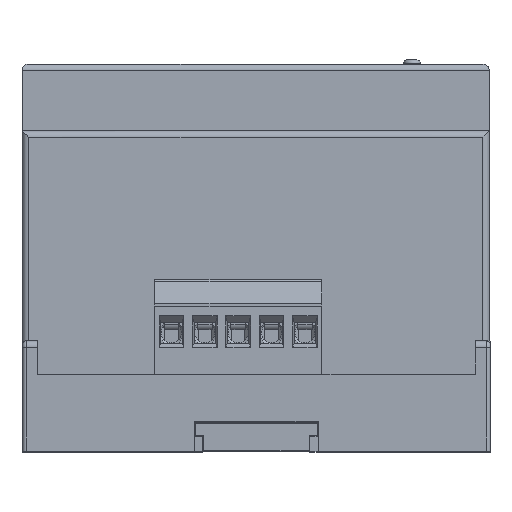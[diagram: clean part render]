
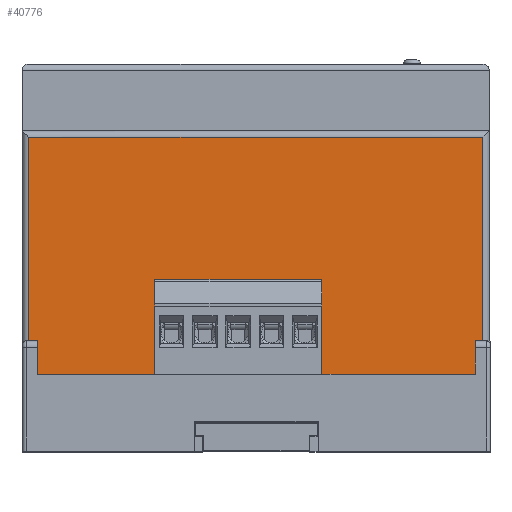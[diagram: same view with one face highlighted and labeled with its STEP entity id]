
A CAD part, top view. The second image highlights one B-rep face of the part: STEP entity #40776.
In plain terms, the highlighted planar face has unit normal (0, 0, 1).
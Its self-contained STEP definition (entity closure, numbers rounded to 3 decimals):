
#926 = LINE ( 'NONE', #176845, #71948 ) ;
#1255 = LINE ( 'NONE', #8703, #34591 ) ;
#1385 = VERTEX_POINT ( 'NONE', #105429 ) ;
#4081 = VERTEX_POINT ( 'NONE', #178886 ) ;
#4165 = DIRECTION ( 'NONE',  ( -1., 0., 0. ) ) ;
#4902 = VERTEX_POINT ( 'NONE', #17407 ) ;
#8703 = CARTESIAN_POINT ( 'NONE',  ( 1.5, -9., 0. ) ) ;
#13365 = DIRECTION ( 'NONE',  ( 0., -1., 0. ) ) ;
#14763 = EDGE_CURVE ( 'NONE', #101395, #125169, #70020, .T. ) ;
#17407 = CARTESIAN_POINT ( 'NONE',  ( 1., -9., 0. ) ) ;
#17801 = DIRECTION ( 'NONE',  ( 0., 0., -1. ) ) ;
#19115 = VECTOR ( 'NONE', #108948, 1000. ) ;
#19228 = CARTESIAN_POINT ( 'NONE',  ( 1.5, -6.5, 0. ) ) ;
#22825 = EDGE_LOOP ( 'NONE', ( #166928, #154303, #30416, #163046, #63337, #144055, #98674, #120431, #105051, #24011 ) ) ;
#24011 = ORIENTED_EDGE ( 'NONE', *, *, #69935, .T. ) ;
#27605 = CARTESIAN_POINT ( 'NONE',  ( 1.5, -5., 0. ) ) ;
#27897 = VECTOR ( 'NONE', #89599, 1000. ) ;
#30405 = CARTESIAN_POINT ( 'NONE',  ( 0., 30.5, 0. ) ) ;
#30416 = ORIENTED_EDGE ( 'NONE', *, *, #158487, .F. ) ;
#31163 = EDGE_CURVE ( 'NONE', #31623, #127821, #106404, .T. ) ;
#31623 = VERTEX_POINT ( 'NONE', #63448 ) ;
#34591 = VECTOR ( 'NONE', #66374, 1000. ) ;
#34915 = LINE ( 'NONE', #43224, #139158 ) ;
#37014 = DIRECTION ( 'NONE',  ( -1., 0., 0. ) ) ;
#40776 = ADVANCED_FACE ( 'NONE', ( #87478 ), #174091, .F. ) ;
#43224 = CARTESIAN_POINT ( 'NONE',  ( 67., -5., 0. ) ) ;
#43433 = CARTESIAN_POINT ( 'NONE',  ( 68.5, -9., 0. ) ) ;
#43829 = CARTESIAN_POINT ( 'NONE',  ( 68.5, -6.5, 0. ) ) ;
#45474 = EDGE_CURVE ( 'NONE', #4902, #1385, #1255, .T. ) ;
#46197 = LINE ( 'NONE', #30405, #159350 ) ;
#54044 = CARTESIAN_POINT ( 'NONE',  ( 3., -5., 0. ) ) ;
#56207 = AXIS2_PLACEMENT_3D ( 'NONE', #159820, #17801, #4165 ) ;
#63337 = ORIENTED_EDGE ( 'NONE', *, *, #31163, .F. ) ;
#63448 = CARTESIAN_POINT ( 'NONE',  ( 67., -5., 0. ) ) ;
#66374 = DIRECTION ( 'NONE',  ( 1., 0., 0. ) ) ;
#69935 = EDGE_CURVE ( 'NONE', #178270, #128726, #46197, .T. ) ;
#70020 = LINE ( 'NONE', #160288, #27897 ) ;
#70845 = LINE ( 'NONE', #112631, #108642 ) ;
#71749 = DIRECTION ( 'NONE',  ( 0.707, -0.707, 0. ) ) ;
#71948 = VECTOR ( 'NONE', #77608, 1000. ) ;
#75677 = DIRECTION ( 'NONE',  ( 0.707, 0.707, 0. ) ) ;
#77608 = DIRECTION ( 'NONE',  ( 0., 1., 0. ) ) ;
#78169 = VECTOR ( 'NONE', #75677, 1000. ) ;
#78742 = CARTESIAN_POINT ( 'NONE',  ( 1., 30.5, 0. ) ) ;
#79753 = CARTESIAN_POINT ( 'NONE',  ( 1.5, -5., 0. ) ) ;
#84761 = EDGE_CURVE ( 'NONE', #117987, #127821, #115940, .T. ) ;
#87478 = FACE_OUTER_BOUND ( 'NONE', #22825, .T. ) ;
#89599 = DIRECTION ( 'NONE',  ( 0., -1., 0. ) ) ;
#94959 = CARTESIAN_POINT ( 'NONE',  ( 1.5, -6.5, 0. ) ) ;
#95471 = EDGE_CURVE ( 'NONE', #31623, #101395, #34915, .T. ) ;
#98674 = ORIENTED_EDGE ( 'NONE', *, *, #14763, .T. ) ;
#99338 = EDGE_CURVE ( 'NONE', #125169, #4081, #151166, .T. ) ;
#101395 = VERTEX_POINT ( 'NONE', #43829 ) ;
#105051 = ORIENTED_EDGE ( 'NONE', *, *, #141198, .T. ) ;
#105429 = CARTESIAN_POINT ( 'NONE',  ( 1.5, -9., 0. ) ) ;
#106404 = LINE ( 'NONE', #79753, #181755 ) ;
#108642 = VECTOR ( 'NONE', #13365, 1000. ) ;
#108948 = DIRECTION ( 'NONE',  ( 1., 0., 0. ) ) ;
#112570 = DIRECTION ( 'NONE',  ( 0., -1., 0. ) ) ;
#112631 = CARTESIAN_POINT ( 'NONE',  ( 1., 31.5, 0. ) ) ;
#115940 = LINE ( 'NONE', #19228, #78169 ) ;
#117987 = VERTEX_POINT ( 'NONE', #94959 ) ;
#120431 = ORIENTED_EDGE ( 'NONE', *, *, #99338, .T. ) ;
#123141 = CARTESIAN_POINT ( 'NONE',  ( 70., -9., 0. ) ) ;
#125169 = VERTEX_POINT ( 'NONE', #43433 ) ;
#127821 = VERTEX_POINT ( 'NONE', #54044 ) ;
#128726 = VERTEX_POINT ( 'NONE', #78742 ) ;
#139158 = VECTOR ( 'NONE', #71749, 1000. ) ;
#139607 = LINE ( 'NONE', #27605, #177289 ) ;
#140810 = CARTESIAN_POINT ( 'NONE',  ( 69., 30.5, 0. ) ) ;
#141198 = EDGE_CURVE ( 'NONE', #4081, #178270, #926, .T. ) ;
#144055 = ORIENTED_EDGE ( 'NONE', *, *, #95471, .T. ) ;
#151166 = LINE ( 'NONE', #123141, #19115 ) ;
#154303 = ORIENTED_EDGE ( 'NONE', *, *, #45474, .T. ) ;
#158487 = EDGE_CURVE ( 'NONE', #117987, #1385, #139607, .T. ) ;
#159350 = VECTOR ( 'NONE', #171743, 1000. ) ;
#159820 = CARTESIAN_POINT ( 'NONE',  ( 0., 31.5, 0. ) ) ;
#160288 = CARTESIAN_POINT ( 'NONE',  ( 68.5, -5., 0. ) ) ;
#163046 = ORIENTED_EDGE ( 'NONE', *, *, #84761, .T. ) ;
#166928 = ORIENTED_EDGE ( 'NONE', *, *, #173085, .T. ) ;
#171743 = DIRECTION ( 'NONE',  ( -1., 0., 0. ) ) ;
#173085 = EDGE_CURVE ( 'NONE', #128726, #4902, #70845, .T. ) ;
#174091 = PLANE ( 'NONE',  #56207 ) ;
#176845 = CARTESIAN_POINT ( 'NONE',  ( 69., 31.5, 0. ) ) ;
#177289 = VECTOR ( 'NONE', #112570, 1000. ) ;
#178270 = VERTEX_POINT ( 'NONE', #140810 ) ;
#178886 = CARTESIAN_POINT ( 'NONE',  ( 69., -9., 0. ) ) ;
#181755 = VECTOR ( 'NONE', #37014, 1000. ) ;
